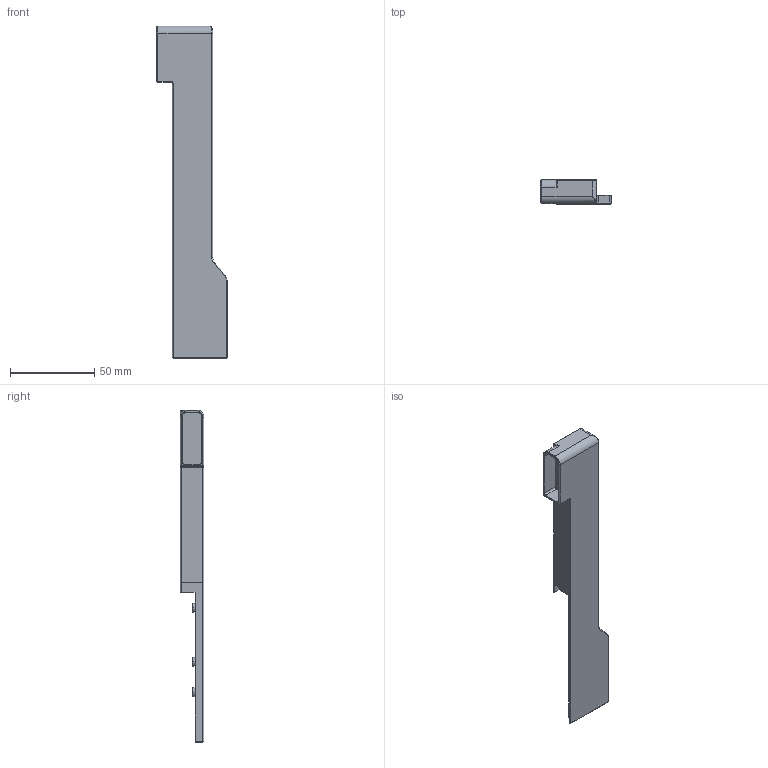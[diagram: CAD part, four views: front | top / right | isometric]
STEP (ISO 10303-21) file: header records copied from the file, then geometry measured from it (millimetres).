
FILE_DESCRIPTION (( 'STEP AP214' ), '1' );
FILE_NAME ('Frontblendenhalter_Classic_hoch_rechts.step', '2010-10-27T12:00:14', ( 'grass' ), ( '' ), 'SwSTEP 2.0', 'SolidWorks 2010', '' );
FILE_SCHEMA (( 'AUTOMOTIVE_DESIGN' ));
Length unit declared in the file: millimetre
Products named in the file (1): Frontblendenhalter_Classic_hoch_rechts
Bounding box: 41.5 x 14 x 196.75 mm (x, y, z)
Volume: 33634.7 mm3; surface area: 18360.9 mm2
Topology: 1 solids, 1 shells, 90 faces, 217 edges, 130 vertices
Faces by surface type: cylinder 42, plane 34, torus 8, sphere 5, bspline 1
Entity records: 2686 total; most frequent: CARTESIAN_POINT 530, DIRECTION 475, ORIENTED_EDGE 422, EDGE_CURVE 211, AXIS2_PLACEMENT_3D 179, VERTEX_POINT 130, VECTOR 117, LINE 117
